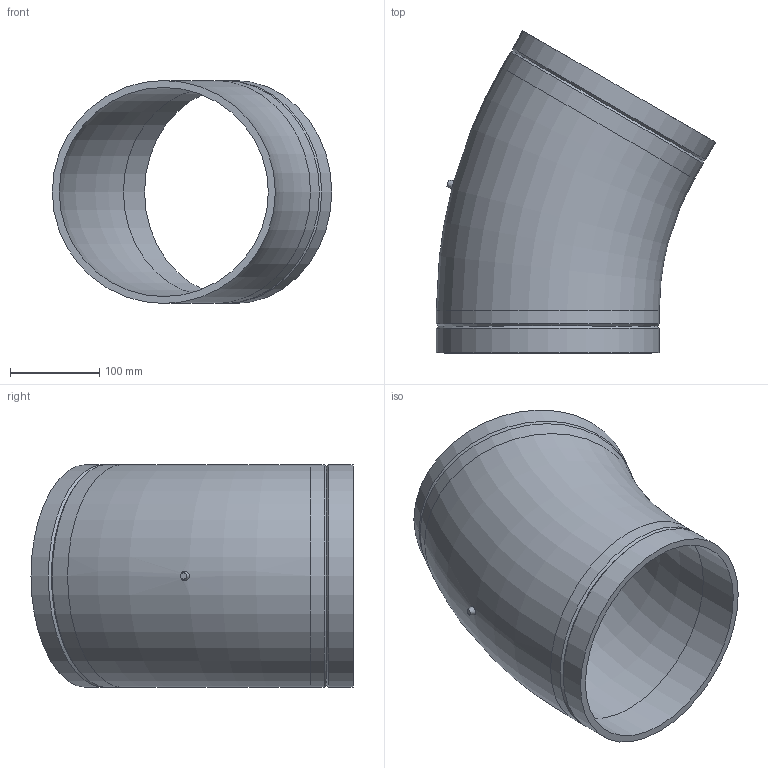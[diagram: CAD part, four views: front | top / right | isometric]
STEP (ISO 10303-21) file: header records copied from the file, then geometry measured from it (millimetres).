
FILE_DESCRIPTION(/* description */ (''),/* implementation_level */ '2;1');
FILE_NAME(/* name */ 'Z:\Geberit\Export\NewStep\PE Bogen Einzelteil_Ipart\stp\371030.stp',/* time_stamp */ '2014-04-02T11:55:35+02:00',/* author */ ('bruh'),/* organization */ (''),/* preprocessor_version */ 'ST-DEVELOPER v15.2',/* originating_system */ 'Autodesk Inventor 2014',/* authorisation */ '');
FILE_SCHEMA (('AUTOMOTIVE_DESIGN { 1 0 10303 214 3 1 1 }'));
Length unit declared in the file: millimetre
Products named in the file (1): 371030
Bounding box: 313.25 x 361.06 x 250 mm (x, y, z)
Volume: 1859135.6 mm3; surface area: 494248.9 mm2
Topology: 1 solids, 1 shells, 16 faces, 34 edges, 20 vertices
Faces by surface type: cylinder 6, cone 5, plane 3, torus 2
Full cylindrical faces by diameter (mm): 234.4 x2, 250 x4
Entity records: 405 total; most frequent: CARTESIAN_POINT 92, DIRECTION 64, EDGE_LOOP 32, ORIENTED_EDGE 32, AXIS2_PLACEMENT_3D 32, FACE_BOUND 18, STYLED_ITEM 17, VERTEX_POINT 16
